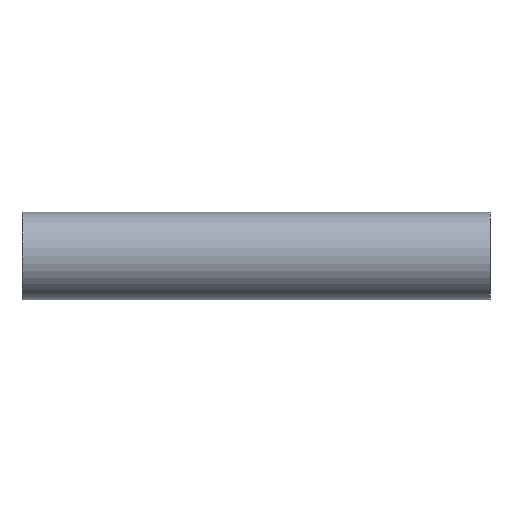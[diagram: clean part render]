
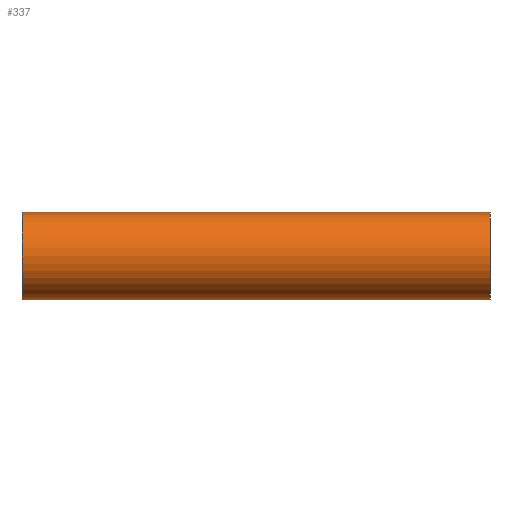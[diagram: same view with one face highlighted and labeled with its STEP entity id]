
A CAD part, front view. The second image highlights one B-rep face of the part: STEP entity #337.
In plain terms, the highlighted cylindrical face has radius 9.525 mm (diameter 19.05 mm), a partial arc.
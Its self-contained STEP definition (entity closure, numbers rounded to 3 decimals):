
#18 = CARTESIAN_POINT ( 'NONE',  ( -50.8, 0., -9.525 ) ) ;
#69 = CARTESIAN_POINT ( 'NONE',  ( -50.8, 0., 0. ) ) ;
#78 = EDGE_LOOP ( 'NONE', ( #236, #475, #410, #137 ) ) ;
#81 = CARTESIAN_POINT ( 'NONE',  ( -50.8, 0., -9.525 ) ) ;
#88 = CIRCLE ( 'NONE', #344, 9.525 ) ;
#137 = ORIENTED_EDGE ( 'NONE', *, *, #297, .T. ) ;
#138 = EDGE_CURVE ( 'NONE', #395, #294, #426, .T. ) ;
#143 = EDGE_CURVE ( 'NONE', #304, #395, #384, .T. ) ;
#154 = DIRECTION ( 'NONE',  ( 1., 0., 0. ) ) ;
#182 = DIRECTION ( 'NONE',  ( 0., 0., -1. ) ) ;
#190 = FACE_OUTER_BOUND ( 'NONE', #78, .T. ) ;
#206 = CARTESIAN_POINT ( 'NONE',  ( -50.8, 0., 9.525 ) ) ;
#209 = VECTOR ( 'NONE', #397, 1000. ) ;
#217 = CARTESIAN_POINT ( 'NONE',  ( 50.8, 0., -9.525 ) ) ;
#236 = ORIENTED_EDGE ( 'NONE', *, *, #317, .F. ) ;
#272 = CARTESIAN_POINT ( 'NONE',  ( 50.8, 0., 0. ) ) ;
#273 = DIRECTION ( 'NONE',  ( -1., 0., 0. ) ) ;
#274 = DIRECTION ( 'NONE',  ( 0., 0., -1. ) ) ;
#275 = CARTESIAN_POINT ( 'NONE',  ( 50.8, 0., 9.525 ) ) ;
#279 = CARTESIAN_POINT ( 'NONE',  ( -50.8, 0., 0. ) ) ;
#281 = VECTOR ( 'NONE', #286, 1000. ) ;
#284 = DIRECTION ( 'NONE',  ( 1., 0., 0. ) ) ;
#285 = CARTESIAN_POINT ( 'NONE',  ( -50.8, 0., 9.525 ) ) ;
#286 = DIRECTION ( 'NONE',  ( 1., 0., 0. ) ) ;
#294 = VERTEX_POINT ( 'NONE', #217 ) ;
#295 = LINE ( 'NONE', #285, #281 ) ;
#297 = EDGE_CURVE ( 'NONE', #294, #306, #88, .T. ) ;
#304 = VERTEX_POINT ( 'NONE', #206 ) ;
#306 = VERTEX_POINT ( 'NONE', #275 ) ;
#307 = DIRECTION ( 'NONE',  ( 0., 0., -1. ) ) ;
#317 = EDGE_CURVE ( 'NONE', #304, #306, #295, .T. ) ;
#337 = ADVANCED_FACE ( 'NONE', ( #190 ), #462, .T. ) ;
#344 = AXIS2_PLACEMENT_3D ( 'NONE', #272, #273, #274 ) ;
#384 = CIRCLE ( 'NONE', #490, 9.525 ) ;
#395 = VERTEX_POINT ( 'NONE', #81 ) ;
#397 = DIRECTION ( 'NONE',  ( 1., 0., 0. ) ) ;
#404 = AXIS2_PLACEMENT_3D ( 'NONE', #279, #284, #307 ) ;
#410 = ORIENTED_EDGE ( 'NONE', *, *, #138, .T. ) ;
#426 = LINE ( 'NONE', #18, #209 ) ;
#462 = CYLINDRICAL_SURFACE ( 'NONE', #404, 9.525 ) ;
#475 = ORIENTED_EDGE ( 'NONE', *, *, #143, .T. ) ;
#490 = AXIS2_PLACEMENT_3D ( 'NONE', #69, #154, #182 ) ;
